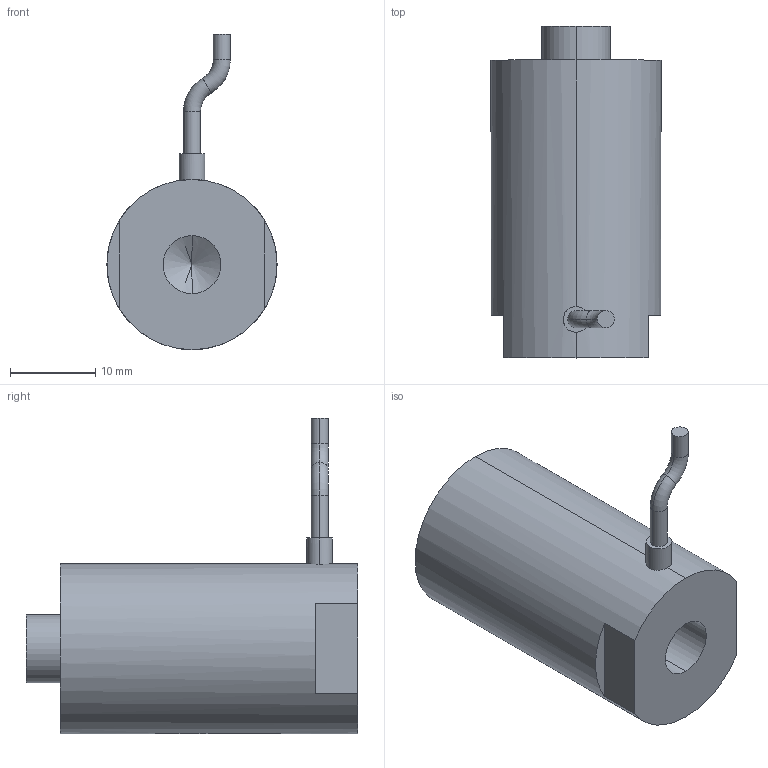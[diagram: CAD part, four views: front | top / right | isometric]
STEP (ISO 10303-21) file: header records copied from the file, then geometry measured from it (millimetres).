
FILE_DESCRIPTION (( 'STEP AP203' ), '1' );
FILE_NAME ('ﾆｽﾍｷﾊｽ20VS20.STEP', '2021-07-08T05:35:45', ( 'ﾎ｢ﾈ橆ﾃｻｧ' ), ( 'ﾎ｢ﾈ晥ｫﾋｾ' ), 'SwSTEP 2.0', 'SolidWorks 2016', '' );
FILE_SCHEMA (( 'CONFIG_CONTROL_DESIGN' ));
Length unit declared in the file: millimetre
Products named in the file (1): ƽͷʽ20VS20
Bounding box: 20 x 39 x 37.06 mm (x, y, z)
Volume: 10743.8 mm3; surface area: 3287.3 mm2
Topology: 1 solids, 1 shells, 925 faces, 2506 edges, 1665 vertices
Faces by surface type: bspline 515, plane 301, cylinder 103, torus 4, cone 2
Entity records: 44549 total; most frequent: CARTESIAN_POINT 25844, ORIENTED_EDGE 5000, EDGE_CURVE 2500, DIRECTION 1880, B_SPLINE_CURVE_WITH_KNOTS 1702, VERTEX_POINT 1663, EDGE_LOOP 1011, FACE_OUTER_BOUND 925
